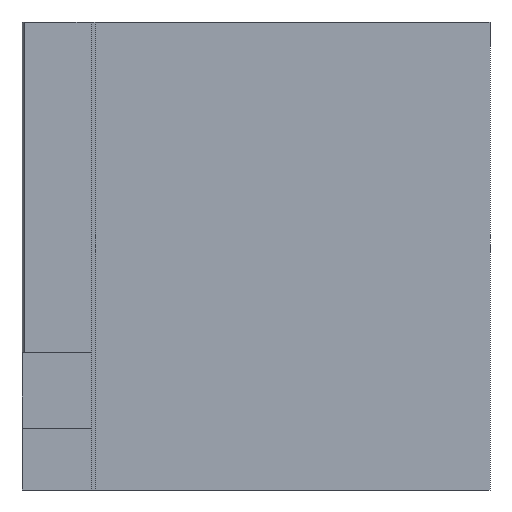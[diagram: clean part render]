
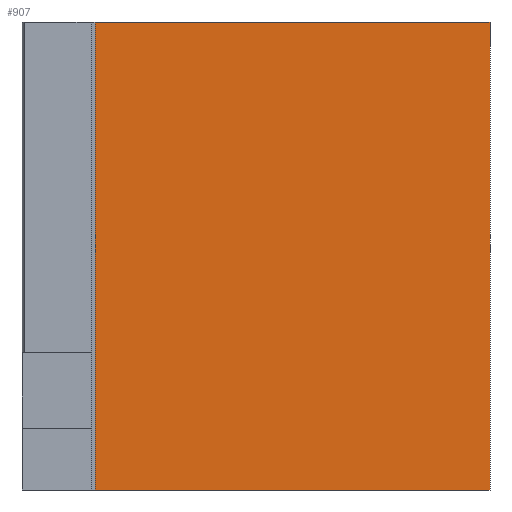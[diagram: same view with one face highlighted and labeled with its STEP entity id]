
A CAD part, front view. The second image highlights one B-rep face of the part: STEP entity #907.
In plain terms, the highlighted planar face has unit normal (0, -1, 0).
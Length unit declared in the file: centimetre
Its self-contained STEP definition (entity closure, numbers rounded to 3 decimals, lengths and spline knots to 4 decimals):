
#13 = CARTESIAN_POINT ( 'NONE',  ( 1000., 0., 1000. ) ) ;
#54 = EDGE_CURVE ( 'NONE', #232, #1021, #509, .T. ) ;
#69 = DIRECTION ( 'NONE',  ( 0., 0., -1. ) ) ;
#151 = VERTEX_POINT ( 'NONE', #690 ) ;
#232 = VERTEX_POINT ( 'NONE', #13 ) ;
#238 = LINE ( 'NONE', #1339, #520 ) ;
#243 = LINE ( 'NONE', #439, #284 ) ;
#284 = VECTOR ( 'NONE', #565, 100. ) ;
#297 = EDGE_CURVE ( 'NONE', #151, #232, #243, .T. ) ;
#391 = CARTESIAN_POINT ( 'NONE',  ( 1000., 0., 1000. ) ) ;
#432 = ORIENTED_EDGE ( 'NONE', *, *, #1075, .T. ) ;
#439 = CARTESIAN_POINT ( 'NONE',  ( 0., 0., 1000. ) ) ;
#447 = DIRECTION ( 'NONE',  ( 0., 0., -1. ) ) ;
#508 = DIRECTION ( 'NONE',  ( 1., 0., 0. ) ) ;
#509 = LINE ( 'NONE', #391, #1229 ) ;
#520 = VECTOR ( 'NONE', #447, 100. ) ;
#565 = DIRECTION ( 'NONE',  ( 1., 0., 0. ) ) ;
#587 = VECTOR ( 'NONE', #508, 100. ) ;
#598 = PLANE ( 'NONE',  #608 ) ;
#608 = AXIS2_PLACEMENT_3D ( 'NONE', #712, #1404, #1272 ) ;
#677 = EDGE_CURVE ( 'NONE', #151, #1327, #238, .T. ) ;
#690 = CARTESIAN_POINT ( 'NONE',  ( 156.6786, 0., 1000. ) ) ;
#712 = CARTESIAN_POINT ( 'NONE',  ( 0., 0., 1000. ) ) ;
#713 = ORIENTED_EDGE ( 'NONE', *, *, #54, .F. ) ;
#736 = CARTESIAN_POINT ( 'NONE',  ( 156.6786, 0., 0. ) ) ;
#907 = ADVANCED_FACE ( 'NONE', ( #1259 ), #598, .F. ) ;
#953 = ORIENTED_EDGE ( 'NONE', *, *, #677, .T. ) ;
#985 = CARTESIAN_POINT ( 'NONE',  ( 0., 0., 0. ) ) ;
#1021 = VERTEX_POINT ( 'NONE', #1195 ) ;
#1072 = ORIENTED_EDGE ( 'NONE', *, *, #297, .F. ) ;
#1075 = EDGE_CURVE ( 'NONE', #1327, #1021, #1295, .T. ) ;
#1173 = EDGE_LOOP ( 'NONE', ( #1072, #953, #432, #713 ) ) ;
#1195 = CARTESIAN_POINT ( 'NONE',  ( 1000., 0., 0. ) ) ;
#1229 = VECTOR ( 'NONE', #69, 100. ) ;
#1259 = FACE_OUTER_BOUND ( 'NONE', #1173, .T. ) ;
#1272 = DIRECTION ( 'NONE',  ( 0., 0., 1. ) ) ;
#1295 = LINE ( 'NONE', #985, #587 ) ;
#1327 = VERTEX_POINT ( 'NONE', #736 ) ;
#1339 = CARTESIAN_POINT ( 'NONE',  ( 156.6786, 0., 1000. ) ) ;
#1404 = DIRECTION ( 'NONE',  ( 0., 1., 0. ) ) ;
